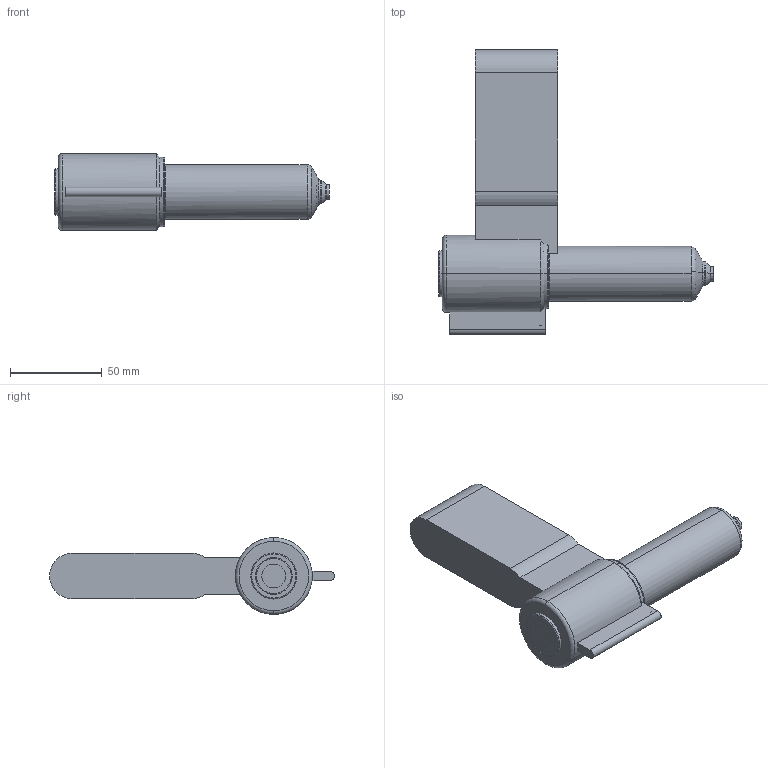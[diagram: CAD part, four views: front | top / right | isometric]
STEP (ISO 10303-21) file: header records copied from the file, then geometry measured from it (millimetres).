
FILE_DESCRIPTION (( 'STEP AP214' ), '1' );
FILE_NAME ('PLS18-110CE-1.2.STEP', '2021-08-31T08:13:30', ( '' ), ( '' ), 'SwSTEP 2.0', 'SolidWorks 2018', '' );
FILE_SCHEMA (( 'AUTOMOTIVE_DESIGN' ));
Length unit declared in the file: millimetre
Products named in the file (5): join^PLS｢ﾚ-NOZZLE-2; CE(18)-2; BODY SPRING(18-SPRING)-2; PLSＬ(18)-2; PLS18-110CE-1.2
Assembly tree (4 placements, depth 2):
  PLS18-110CE-1.2
    PLSＬ(18)-2
    BODY SPRING(18-SPRING)-2
    CE(18)-2
    join^PLS｢ﾚ-NOZZLE-2
Bounding box: 150 x 155.6 x 42 mm (x, y, z)
Volume: 349860.1 mm3; surface area: 59655.5 mm2
Topology: 4 solids, 4 shells, 252 faces, 625 edges, 394 vertices
Faces by surface type: cylinder 122, plane 55, torus 37, cone 36, sphere 2
Entity records: 8288 total; most frequent: CARTESIAN_POINT 1916, DIRECTION 1414, ORIENTED_EDGE 1250, EDGE_CURVE 625, AXIS2_PLACEMENT_3D 602, VERTEX_POINT 394, CIRCLE 343, EDGE_LOOP 279
